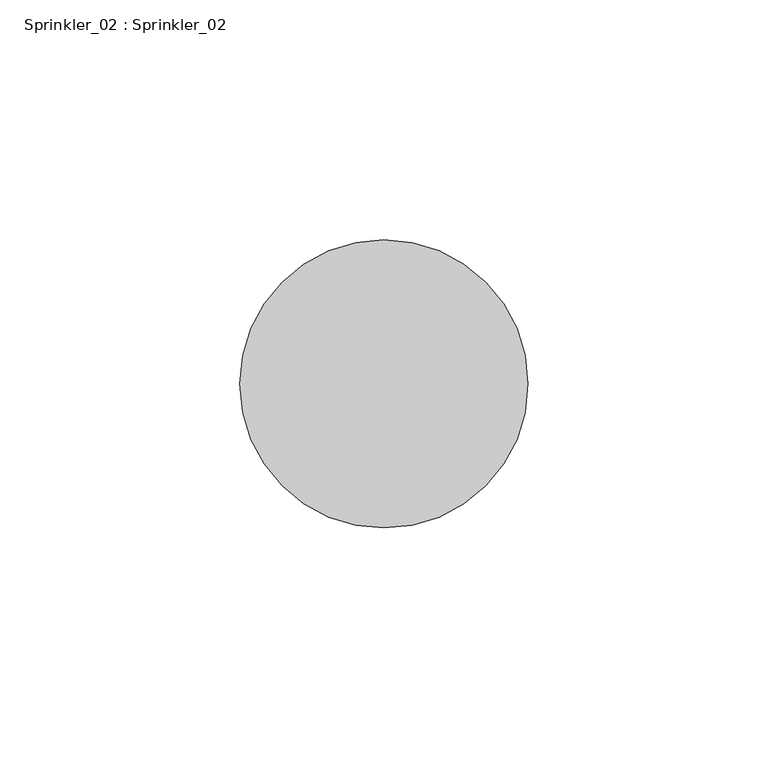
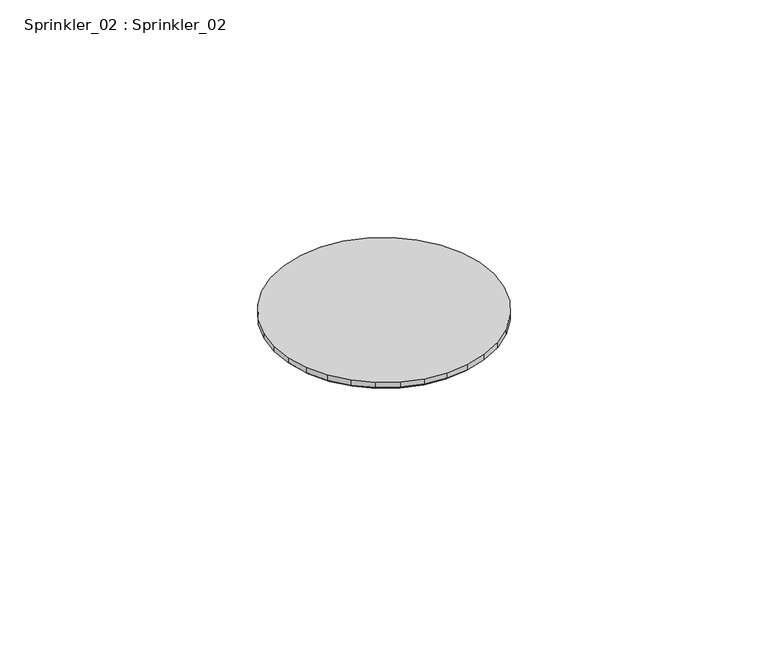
"""IFC4 building model written with IfcOpenShell, lengths in millimetres: fire suppression terminal geometry, Sprinkler_02 : Sprinkler_02."""

import ifcopenshell
import ifcopenshell.guid

model = None  # the IFC model being written
_history = None  # IfcOwnerHistory: only IFC2X3 demands one
_inside = {}  # id of a spatial element -> (the spatial element, [elements in it])
_under = {}  # id of a project, library or spatial element -> (it, [spatial elements below it])
_declared = {}  # id of a project -> (the project, [libraries it declares])
_typed = {}  # id of a type object -> (the type object, [elements of that type])
_made_of = {}  # id of a material, layer set ... -> (it, [elements and type objects made of it])


def new_model(schema):
    """Start an empty IFC model of exactly this schema.

    Asked for "IFC4X3", IfcOpenShell would pick the latest addendum, in which some entities
    have other attributes; the version numbers below select the first issue.
    IFC2X3 requires an IfcOwnerHistory on every rooted entity: one is made here for all.
    """
    global model, _history
    if schema == "IFC4X3":
        model = ifcopenshell.file(schema_version=(4, 3, 0, 0))
    else:
        model = ifcopenshell.file(schema=schema)
    _inside.clear()
    _under.clear()
    _declared.clear()
    _typed.clear()
    _made_of.clear()
    _history = None
    if model.schema == "IFC2X3":
        org = make("IfcOrganization", Name="unknown")
        user = make(
            "IfcPersonAndOrganization",
            ThePerson=make("IfcPerson", FamilyName="unknown"),
            TheOrganization=org,
        )
        app = make(
            "IfcApplication",
            ApplicationDeveloper=org,
            Version="unknown",
            ApplicationFullName="unknown",
            ApplicationIdentifier="unknown",
        )
        _history = make(
            "IfcOwnerHistory",
            OwningUser=user,
            OwningApplication=app,
            ChangeAction="ADDED",
            CreationDate=0,
        )
    return model


def make(cls, **values):
    """One entity of the class cls with the attributes given. An attribute that is None is left unset."""
    return model.create_entity(
        cls, **{name: value for name, value in values.items() if value is not None}
    )


def rooted(cls, **values):
    """An entity with a GlobalId (a new one), such as an element, a storey or a relation."""
    return make(cls, GlobalId=ifcopenshell.guid.new(), OwnerHistory=_history, **values)


def si_unit(unit_type, name, prefix=None):
    """IfcSIUnit, for example si_unit("LENGTHUNIT", "METRE", prefix="MILLI")."""
    return make("IfcSIUnit", UnitType=unit_type, Prefix=prefix, Name=name)


def assignment(units):
    """IfcUnitAssignment: the units of a project."""
    return None if units is None else make("IfcUnitAssignment", Units=units)


def point(xyz):
    """IfcCartesianPoint."""
    return None if xyz is None else make("IfcCartesianPoint", Coordinates=xyz)


def direction(xyz):
    """IfcDirection."""
    return None if xyz is None else make("IfcDirection", DirectionRatios=xyz)


def frame(location, z_axis=None, x_axis=None):
    """IfcAxis2Placement3D, a coordinate frame: its origin and axes. An axis left out is left unset."""
    return make(
        "IfcAxis2Placement3D",
        Location=point(location),
        Axis=direction(z_axis),
        RefDirection=direction(x_axis),
    )


def origin():
    """The frame at (0, 0, 0) with its axes left unset."""
    return frame((0.0, 0.0, 0.0))


def place(relative_to, where):
    """IfcLocalPlacement: puts the frame where relative to a parent placement (None: the world)."""
    return make(
        "IfcLocalPlacement", PlacementRelTo=relative_to, RelativePlacement=where
    )


def context(
    kind, dimensions, precision=None, world=None, true_north=None, identifier=None
):
    """IfcGeometricRepresentationContext, for example the 3D "Model" context."""
    return make(
        "IfcGeometricRepresentationContext",
        ContextIdentifier=identifier,
        ContextType=kind,
        CoordinateSpaceDimension=dimensions,
        Precision=precision,
        WorldCoordinateSystem=world,
        TrueNorth=true_north,
    )


def project(units=None, contexts=None):
    """IfcProject with its units and contexts."""
    return rooted(
        "IfcProject",
        Name="project",
        RepresentationContexts=contexts,
        UnitsInContext=assignment(units),
    )


def spatial(cls, under=None, at=None, **own):
    """A site, building, storey or space (cls), placed at a placement, below another one or the project."""
    s = rooted(cls, ObjectPlacement=at, **own)
    if under is not None:
        _under.setdefault(under.id(), (under, []))[1].append(s)
    return s


def polyline(points):
    """IfcPolyline through the points."""
    return make("IfcPolyline", Points=[point(p) for p in points])


def outline(outer, holes=None, kind="AREA"):
    """IfcArbitraryClosedProfileDef: a profile drawn as a closed curve; with holes, ...WithVoids."""
    if holes is None:
        return make("IfcArbitraryClosedProfileDef", ProfileType=kind, OuterCurve=outer)
    return make(
        "IfcArbitraryProfileDefWithVoids",
        ProfileType=kind,
        OuterCurve=outer,
        InnerCurves=holes,
    )


def extrude(swept, where, along, depth):
    """IfcExtrudedAreaSolid: the profile swept, set in the frame where, extruded along a direction by depth."""
    return make(
        "IfcExtrudedAreaSolid",
        SweptArea=swept,
        Position=where,
        ExtrudedDirection=direction(along),
        Depth=depth,
    )


def faces_of(points, faces, orient=None, outer=None):
    """IfcFace entities. A face is a list of loops; a loop is a list of indices into points, from 0.

    orient and outer hold one flag for each loop. By default every Orientation is true, the
    first loop of a face is its IfcFaceOuterBound and the others are IfcFaceBound.
    """
    made = []
    for i, loops in enumerate(faces):
        bounds = []
        for j, loop in enumerate(loops):
            is_outer = j == 0 if outer is None else outer[i][j]
            bounds.append(
                make(
                    "IfcFaceOuterBound" if is_outer else "IfcFaceBound",
                    Bound=make("IfcPolyLoop", Polygon=[points[k] for k in loop]),
                    Orientation=True if orient is None else orient[i][j],
                )
            )
        made.append(make("IfcFace", Bounds=bounds))
    return made


def faceted_brep(points, faces, orient=None, outer=None, voids=None):
    """IfcFacetedBrep: a solid bounded by flat faces; with voids (closed shells), ...WithVoids."""
    shared = [point(p) for p in points]
    hull = make("IfcClosedShell", CfsFaces=faces_of(shared, faces, orient, outer))
    if voids is None:
        return make("IfcFacetedBrep", Outer=hull)
    return make(
        "IfcFacetedBrepWithVoids",
        Outer=hull,
        Voids=[
            make(cls, CfsFaces=faces_of(shared, fs, o, b)) for cls, fs, o, b in voids
        ],
    )


def shape(context_of_items, identifier, shape_type, items):
    """IfcShapeRepresentation: the items that make up one representation, for example the "Body"."""
    return make(
        "IfcShapeRepresentation",
        ContextOfItems=context_of_items,
        RepresentationIdentifier=identifier,
        RepresentationType=shape_type,
        Items=items,
    )


def source(mapping_origin, context_of_items, identifier, shape_type, items):
    """IfcRepresentationMap: a shape defined once, which mapped items show again and again."""
    return make(
        "IfcRepresentationMap",
        MappingOrigin=mapping_origin,
        MappedRepresentation=shape(context_of_items, identifier, shape_type, items),
    )


def transform(
    local_origin,
    x_axis=None,
    y_axis=None,
    z_axis=None,
    scale=None,
    scale2=None,
    scale3=None,
    uniform=True,
):
    """IfcCartesianTransformationOperator3D, or its non-uniform kind. x_axis, y_axis, z_axis: its Axis1, 2, 3."""
    if uniform:
        return make(
            "IfcCartesianTransformationOperator3D",
            Axis1=direction(x_axis),
            Axis2=direction(y_axis),
            LocalOrigin=point(local_origin),
            Scale=scale,
            Axis3=direction(z_axis),
        )
    return make(
        "IfcCartesianTransformationOperator3DnonUniform",
        Axis1=direction(x_axis),
        Axis2=direction(y_axis),
        LocalOrigin=point(local_origin),
        Scale=scale,
        Axis3=direction(z_axis),
        Scale2=scale2,
        Scale3=scale3,
    )


def mapped(mapping_source, mapping_target):
    """IfcMappedItem: shows the shape of a source again, moved by a transform."""
    return make(
        "IfcMappedItem", MappingSource=mapping_source, MappingTarget=mapping_target
    )


def made_of(thing, what):
    """Note that an element or type object is made of a material, layer set ...; save() writes the relation."""
    if what is not None:
        _made_of.setdefault(what.id(), (what, []))[1].append(thing)
    return thing


def element(
    cls,
    number,
    at=None,
    inside=None,
    cuts=None,
    type_object=None,
    material=None,
    context=None,
    identifier="Body",
    shape_type=None,
    held_by="IfcProductDefinitionShape",
    body=None,
    shapes=None,
    **own,
):
    """One element of the class cls, such as IfcWall. Its Tag is "e" and its number.

    at: its placement. inside: the storey or other place that contains it. cuts: it is an
    opening in that element (IfcRelVoidsElement). A single representation is given by context,
    identifier, shape_type and body (its items); several are given by shapes. held_by: the class
    of the entity that holds the representations. save() writes the other relations.
    """
    e = rooted(cls, Tag="e%d" % number, ObjectPlacement=at, **own)
    if body is not None:
        shapes = [shape(context, identifier, shape_type, body)]
    if shapes is not None:
        e.Representation = make(held_by, Representations=shapes)
    if inside is not None:
        _inside.setdefault(inside.id(), (inside, []))[1].append(e)
    if cuts is not None:
        rooted(
            "IfcRelVoidsElement", RelatingBuildingElement=cuts, RelatedOpeningElement=e
        )
    if type_object is not None:
        _typed.setdefault(type_object.id(), (type_object, []))[1].append(e)
    return made_of(e, material)


def aggregate(whole, parts):
    """IfcRelAggregates: a whole, such as a stair, and the parts it consists of."""
    return rooted("IfcRelAggregates", RelatingObject=whole, RelatedObjects=parts)


def save(model, path):
    """Write the relations noted so far, then the file.

    IfcRelAggregates (storeys below a building ...), IfcRelContainedInSpatialStructure (elements
    in a storey), IfcRelDefinesByType, IfcRelAssociatesMaterial and IfcRelDeclares: one each for
    every whole, place, type object, material and project.
    """
    for whole, parts in _under.values():
        aggregate(whole, parts)
    for where, things in _inside.values():
        rooted(
            "IfcRelContainedInSpatialStructure",
            RelatedElements=things,
            RelatingStructure=where,
        )
    for kind, things in _typed.values():
        rooted("IfcRelDefinesByType", RelatedObjects=things, RelatingType=kind)
    for what, things in _made_of.values():
        rooted("IfcRelAssociatesMaterial", RelatedObjects=things, RelatingMaterial=what)
    for by, libraries in _declared.values():
        rooted("IfcRelDeclares", RelatingContext=by, RelatedDefinitions=libraries)
    model.write(path)


def sprinkler_02_sprinkler_02_5ab57ab1(model_context):
    return source(origin(), model_context, "Body", "SolidModel", [
        extrude(outline(polyline([(-2.0098133, -10.1040136), (-3.9423905, -9.5177727), (-5.723464, -8.5657691), (-7.2845879, -7.2845879), (-8.5657691, -5.723464), (-9.5177727, -3.9423905), (-10.1040136, -2.0098133), (-10.301963, 0.0), (-10.1040136, 2.0098133), (-9.5177727, 3.9423905), (-8.5657691, 5.723464), (-7.2845879, 7.2845879), (-5.723464, 8.5657691), (-3.9423905, 9.5177727), (-2.0098133, 10.1040136), (0.0, 10.301963), (2.0098133, 10.1040136), (3.9423905, 9.5177727), (5.723464, 8.5657691), (7.2845879, 7.2845879), (8.5657691, 5.723464), (9.5177727, 3.9423905), (10.1040136, 2.0098133), (10.301963, 0.0), (10.1040136, -2.0098133), (9.5177727, -3.9423905), (8.5657691, -5.723464), (7.2845879, -7.2845879), (5.723464, -8.5657691), (3.9423905, -9.5177727), (2.0098133, -10.1040136), (0.0, -10.301963), (-2.0098133, -10.1040136)])), frame((0.0, 0.0, 3986.6870605), z_axis=(0.0, 0.0, 1.0), x_axis=(1.0, 0.0, 0.0)), (0.0, 0.0, 1.0), 7.3880005),
        extrude(outline(polyline([(-2.4026821, -12.0790986), (-4.7130305, -11.3782621), (-6.8422597, -10.2401653), (-8.7085448, -8.7085448), (-10.2401653, -6.8422597), (-11.3782621, -4.7130305), (-12.0790986, -2.4026821), (-12.3157421, 0.0), (-12.0790986, 2.4026821), (-11.3782621, 4.7130305), (-10.2401653, 6.8422597), (-8.7085448, 8.7085448), (-6.8422597, 10.2401653), (-4.7130305, 11.3782621), (-2.4026821, 12.0790986), (0.0, 12.3157421), (2.4026821, 12.0790986), (4.7130305, 11.3782621), (6.8422597, 10.2401653), (8.7085448, 8.7085448), (10.2401653, 6.8422597), (11.3782621, 4.7130305), (12.0790986, 2.4026821), (12.3157421, 0.0), (12.0790986, -2.4026821), (11.3782621, -4.7130305), (10.2401653, -6.8422597), (8.7085448, -8.7085448), (6.8422597, -10.2401653), (4.7130305, -11.3782621), (2.4026821, -12.0790986), (0.0, -12.3157421), (-2.4026821, -12.0790986)])), frame((0.0, 0.0, 3994.075061), z_axis=(0.0, 0.0, 1.0), x_axis=(1.0, 0.0, 0.0)), (0.0, 0.0, 1.0), 2.3651123),
        faceted_brep([(5.7056686, -28.6843332, 3996.4401733), (0.0, -29.2462925, 3996.4401733), (-5.7056686, -28.6843332, 3996.4401733), (-11.1920716, -27.0200511, 3996.4401733), (-16.2483695, -24.3174035, 3996.4401733), (-20.6802518, -20.6802518, 3996.4401733), (-24.3174035, -16.2483695, 3996.4401733), (-27.0200511, -11.1920716, 3996.4401733), (-28.6843332, -5.7056686, 3996.4401733), (-29.2462925, 0.0, 3996.4401733), (-28.6843332, 5.7056686, 3996.4401733), (-27.0200511, 11.1920716, 3996.4401733), (-24.3174035, 16.2483695, 3996.4401733), (-20.6802518, 20.6802518, 3996.4401733), (-16.2483695, 24.3174035, 3996.4401733), (-11.1920716, 27.0200511, 3996.4401733), (-5.7056686, 28.6843332, 3996.4401733), (0.0, 29.2462925, 3996.4401733), (5.7056686, 28.6843332, 3996.4401733), (11.1920716, 27.0200511, 3996.4401733), (16.2483695, 24.3174035, 3996.4401733), (20.6802518, 20.6802518, 3996.4401733), (24.3174035, 16.2483695, 3996.4401733), (27.0200511, 11.1920716, 3996.4401733), (28.6843332, 5.7056686, 3996.4401733), (29.2462925, 0.0, 3996.4401733), (28.6843332, -5.7056686, 3996.4401733), (27.0200511, -11.1920716, 3996.4401733), (24.3174035, -16.2483695, 3996.4401733), (20.6802518, -20.6802518, 3996.4401733), (16.2483695, -24.3174035, 3996.4401733), (11.1920716, -27.0200511, 3996.4401733), (5.8526797, -29.4234077, 3997.1902954), (0.0, -29.9998463, 3997.1902954), (-5.8526797, -29.4234077, 3997.1902954), (-11.4804442, -27.716244, 3997.1902954), (-16.6670216, -24.9439606, 3997.1902954), (-21.2130948, -21.2130948, 3997.1902954), (-24.9439606, -16.6670216, 3997.1902954), (-27.716244, -11.4804442, 3997.1902954), (-29.4234077, -5.8526797, 3997.1902954), (-29.9998463, 0.0, 3997.1902954), (-29.4234077, 5.8526797, 3997.1902954), (-27.716244, 11.4804442, 3997.1902954), (-24.9439606, 16.6670216, 3997.1902954), (-21.2130948, 21.2130948, 3997.1902954), (-16.6670216, 24.9439606, 3997.1902954), (-11.4804442, 27.716244, 3997.1902954), (-5.8526797, 29.4234077, 3997.1902954), (0.0, 29.9998463, 3997.1902954), (5.8526797, 29.4234077, 3997.1902954), (11.4804442, 27.716244, 3997.1902954), (16.6670216, 24.9439606, 3997.1902954), (21.2130948, 21.2130948, 3997.1902954), (24.9439606, 16.6670216, 3997.1902954), (27.716244, 11.4804442, 3997.1902954), (29.4234077, 5.8526797, 3997.1902954), (29.9998463, 0.0, 3997.1902954), (29.4234077, -5.8526797, 3997.1902954), (27.716244, -11.4804442, 3997.1902954), (24.9439606, -16.6670216, 3997.1902954), (21.2130948, -21.2130948, 3997.1902954), (16.6670216, -24.9439606, 3997.1902954), (11.4804442, -27.716244, 3997.1902954), (5.8526797, -29.4234077, 3998.7), (11.4804442, -27.716244, 3998.7), (16.6670216, -24.9439606, 3998.7), (21.2130948, -21.2130948, 3998.7), (24.9439606, -16.6670216, 3998.7), (27.716244, -11.4804442, 3998.7), (29.4234077, -5.8526797, 3998.7), (29.9998463, 0.0, 3998.7), (29.4234077, 5.8526797, 3998.7), (27.716244, 11.4804442, 3998.7), (24.9439606, 16.6670216, 3998.7), (21.2130948, 21.2130948, 3998.7), (16.6670216, 24.9439606, 3998.7), (11.4804442, 27.716244, 3998.7), (5.8526797, 29.4234077, 3998.7), (0.0, 29.9998463, 3998.7), (-5.8526797, 29.4234077, 3998.7), (-11.4804442, 27.716244, 3998.7), (-16.6670216, 24.9439606, 3998.7), (-21.2130948, 21.2130948, 3998.7), (-24.9439606, 16.6670216, 3998.7), (-27.716244, 11.4804442, 3998.7), (-29.4234077, 5.8526797, 3998.7), (-29.9998463, 0.0, 3998.7), (-29.4234077, -5.8526797, 3998.7), (-27.716244, -11.4804442, 3998.7), (-24.9439606, -16.6670216, 3998.7), (-21.2130948, -21.2130948, 3998.7), (-16.6670216, -24.9439606, 3998.7), (-11.4804442, -27.716244, 3998.7), (-5.8526797, -29.4234077, 3998.7), (0.0, -29.9998463, 3998.7)], [[[0, 1, 2, 3, 4, 5, 6, 7, 8, 9, 10, 11, 12, 13, 14, 15, 16, 17, 18, 19, 20, 21, 22, 23, 24, 25, 26, 27, 28, 29, 30, 31]], [[0, 32, 33, 1]], [[1, 33, 34, 2]], [[2, 34, 35, 3]], [[3, 35, 36, 4]], [[4, 36, 37, 5]], [[5, 37, 38, 6]], [[6, 38, 39, 7]], [[7, 39, 40, 8]], [[8, 40, 41, 9]], [[9, 41, 42, 10]], [[10, 42, 43, 11]], [[11, 43, 44, 12]], [[12, 44, 45, 13]], [[13, 45, 46, 14]], [[14, 46, 47, 15]], [[15, 47, 48, 16]], [[16, 48, 49, 17]], [[17, 49, 50, 18]], [[18, 50, 51, 19]], [[19, 51, 52, 20]], [[20, 52, 53, 21]], [[21, 53, 54, 22]], [[22, 54, 55, 23]], [[23, 55, 56, 24]], [[24, 56, 57, 25]], [[25, 57, 58, 26]], [[26, 58, 59, 27]], [[27, 59, 60, 28]], [[28, 60, 61, 29]], [[29, 61, 62, 30]], [[30, 62, 63, 31]], [[31, 63, 32, 0]], [[64, 65, 66, 67, 68, 69, 70, 71, 72, 73, 74, 75, 76, 77, 78, 79, 80, 81, 82, 83, 84, 85, 86, 87, 88, 89, 90, 91, 92, 93, 94, 95]], [[95, 33, 32, 64]], [[94, 34, 33, 95]], [[93, 35, 34, 94]], [[92, 36, 35, 93]], [[91, 37, 36, 92]], [[90, 38, 37, 91]], [[89, 39, 38, 90]], [[88, 40, 39, 89]], [[87, 41, 40, 88]], [[86, 42, 41, 87]], [[85, 43, 42, 86]], [[84, 44, 43, 85]], [[83, 45, 44, 84]], [[82, 46, 45, 83]], [[81, 47, 46, 82]], [[80, 48, 47, 81]], [[79, 49, 48, 80]], [[78, 50, 49, 79]], [[77, 51, 50, 78]], [[76, 52, 51, 77]], [[75, 53, 52, 76]], [[74, 54, 53, 75]], [[73, 55, 54, 74]], [[72, 56, 55, 73]], [[71, 57, 56, 72]], [[70, 58, 57, 71]], [[69, 59, 58, 70]], [[68, 60, 59, 69]], [[67, 61, 60, 68]], [[66, 62, 61, 67]], [[65, 63, 62, 66]], [[64, 32, 63, 65]]]),
    ])


if __name__ == "__main__":
    model = new_model("IFC4")
    model_context = context("Model", 3, world=origin())
    ifc_project = project(units=[si_unit("LENGTHUNIT", "METRE", prefix="MILLI")], contexts=[model_context])
    site = spatial("IfcSite", under=ifc_project)
    building = spatial("IfcBuilding", under=site)
    placement = place(None, origin())
    sprinkler_02_sprinkler_02_shape = sprinkler_02_sprinkler_02_5ab57ab1(model_context)
    element("IfcFireSuppressionTerminal", 1, ObjectType="Sprinkler_02 : Sprinkler_02", at=placement, inside=building, context=model_context, shape_type="MappedRepresentation", body=[
        mapped(sprinkler_02_sprinkler_02_shape, transform((0.0, 0.0, 0.0), x_axis=(1.0, 0.0, 0.0), y_axis=(0.0, 1.0, 0.0), z_axis=(0.0, 0.0, 1.0))),
    ])
    save(model, "model.ifc")
